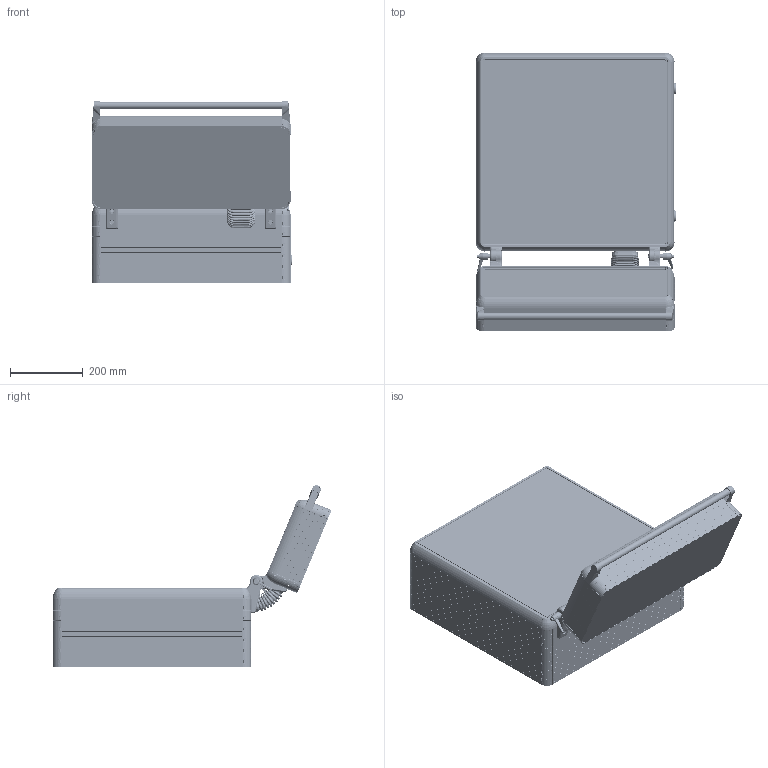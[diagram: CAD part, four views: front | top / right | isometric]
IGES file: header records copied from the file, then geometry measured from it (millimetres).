
Start section: SolidWorks IGES file using analytic representation for surfaces
Global section: file name: D:\KLAVYE\KLV 129090\1290 datalar\1290-9013.IGS; native system: SolidWorks 2022; preprocessor: SolidWorks 2022; author: User; date: 220509.130833; units: millimetre
Bounding box: 551.78 x 767.37 x 500.32 mm (x, y, z)
Surface area: 4120838.4 mm2 (no closed solid volume)
Topology: 0 solids, 0 shells, 21324 faces, 171346 edges, 170427 vertices
Faces by surface type: bspline 14152, revolution 7172
